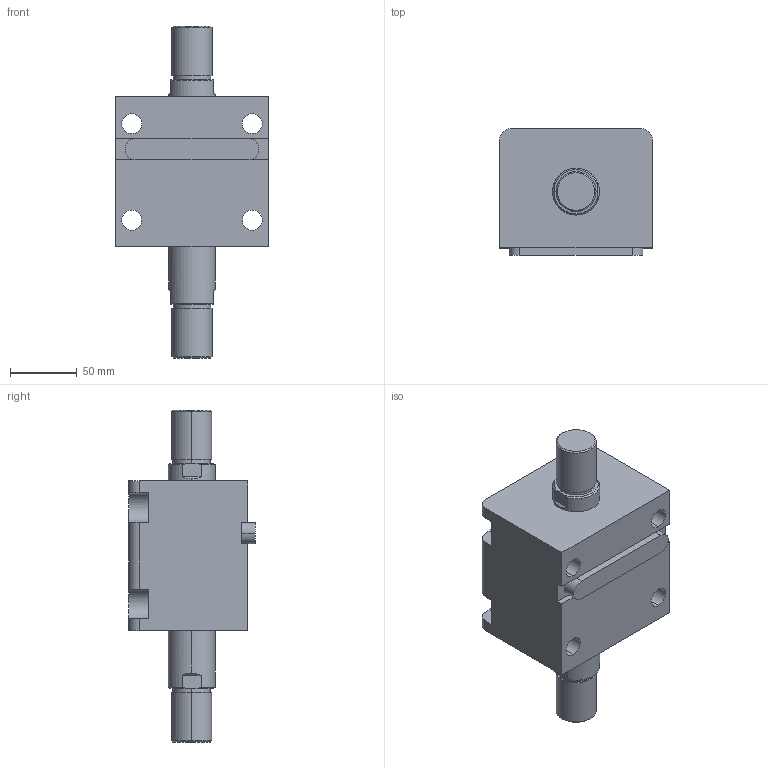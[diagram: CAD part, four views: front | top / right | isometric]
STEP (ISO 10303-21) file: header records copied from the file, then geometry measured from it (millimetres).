
FILE_DESCRIPTION (( 'STEP AP203' ), '1' );
FILE_NAME ('HTB-LW63-30W.STEP', '2019-10-09T08:25:13', ( '微软用户' ), ( '微软中国' ), 'SwSTEP 2.0', 'SolidWorks 2012', '' );
FILE_SCHEMA (( 'CONFIG_CONTROL_DESIGN' ));
Length unit declared in the file: millimetre
Products named in the file (4): HTB-LW63-30W; HTB-LA63-瑩; HTB-LW63-30W活塞杆; HTB-LW63-30掛极
Assembly tree (3 placements, depth 2):
  HTB-LW63-30W
    HTB-LW63-30掛极
    HTB-LW63-30W活塞杆
    HTB-LA63-瑩
Bounding box: 114 x 94.5 x 248 mm (x, y, z)
Volume: 1102934.7 mm3; surface area: 139971.5 mm2
Topology: 3 solids, 3 shells, 109 faces, 265 edges, 174 vertices
Faces by surface type: plane 48, cylinder 45, cone 12, torus 4
Entity records: 3679 total; most frequent: CARTESIAN_POINT 610, DIRECTION 593, ORIENTED_EDGE 530, EDGE_CURVE 265, AXIS2_PLACEMENT_3D 229, VERTEX_POINT 174, VECTOR 135, LINE 135
